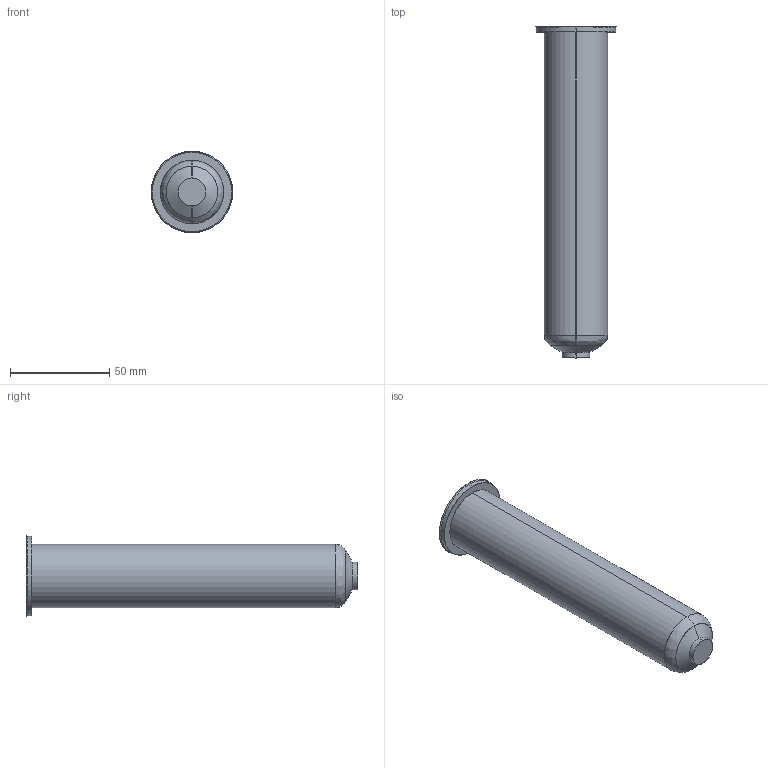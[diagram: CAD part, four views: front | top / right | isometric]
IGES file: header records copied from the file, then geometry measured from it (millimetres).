
Start section: SolidWorks IGES file using analytic representation for surfaces
Global section: file name: C:\Documents and Settings\ws-20\Desktop\TEM\Sede UGEP4104-M-A C-164 L-184 P-0.IGS; native system: SolidWorks 2012; preprocessor: SolidWorks 2012; author: ws-20; date: 120426.091242; units: millimetre
Bounding box: 41 x 167.42 x 41 mm (x, y, z)
Surface area: 18857 mm2 (no closed solid volume)
Topology: 0 solids, 0 shells, 15 faces, 272 edges, 272 vertices
Faces by surface type: revolution 10, bspline 5
